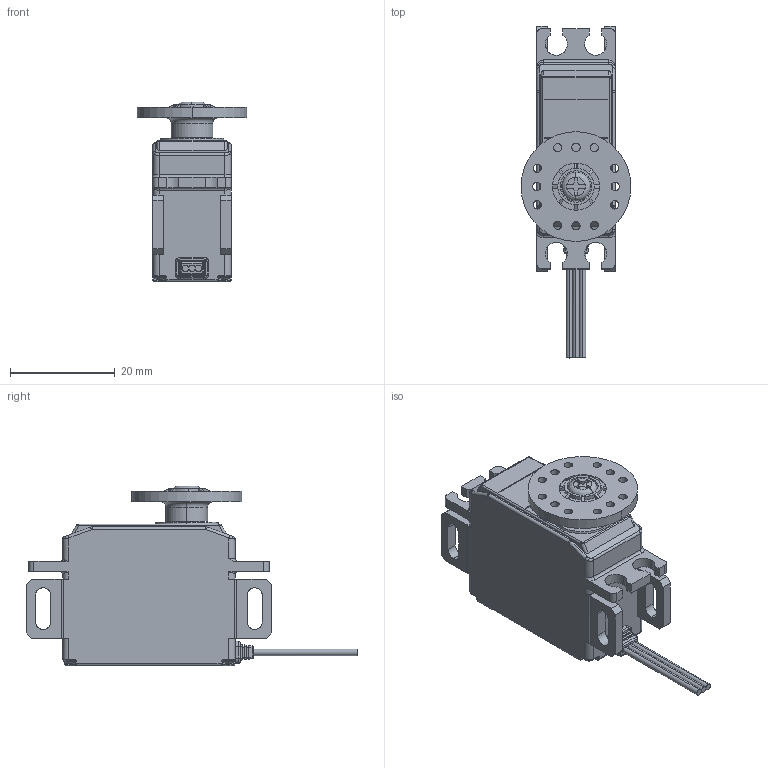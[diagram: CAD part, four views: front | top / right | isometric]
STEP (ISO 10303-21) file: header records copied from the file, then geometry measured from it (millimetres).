
FILE_DESCRIPTION (( 'STEP AP203' ), '1' );
FILE_NAME ('BLA6HB21(3D).STEP', '2022-12-06T04:43:07', ( '' ), ( '' ), 'SwSTEP 2.0', 'SolidWorks 2022', '' );
FILE_SCHEMA (( 'CONFIG_CONTROL_DESIGN' ));
Length unit declared in the file: millimetre
Products named in the file (4): HORN; BLA6HB21(3D); SCREW M3x6; BLA6HB21
Assembly tree (3 placements, depth 2):
  BLA6HB21(3D)
    BLA6HB21
    HORN
    SCREW M3x6
Bounding box: 21 x 63.5 x 34.4 mm (x, y, z)
Volume: 14931.7 mm3; surface area: 6234.6 mm2
Topology: 3 solids, 3 shells, 501 faces, 1323 edges, 841 vertices
Faces by surface type: cylinder 216, plane 187, bspline 42, torus 40, cone 13, sphere 3
Entity records: 52616 total; most frequent: CARTESIAN_POINT 40476, ORIENTED_EDGE 2636, DIRECTION 2139, EDGE_CURVE 1318, VERTEX_POINT 841, AXIS2_PLACEMENT_3D 756, LINE 627, VECTOR 627
